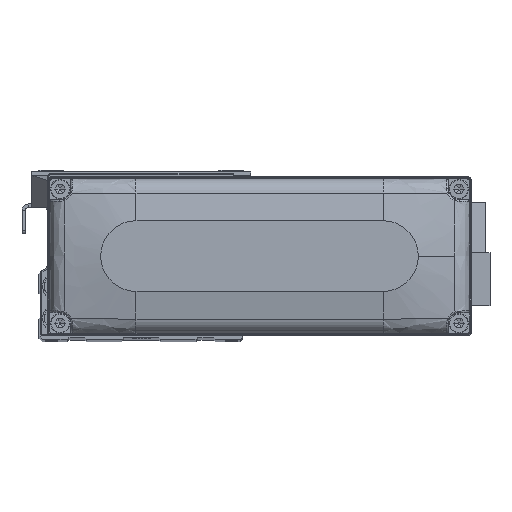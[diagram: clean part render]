
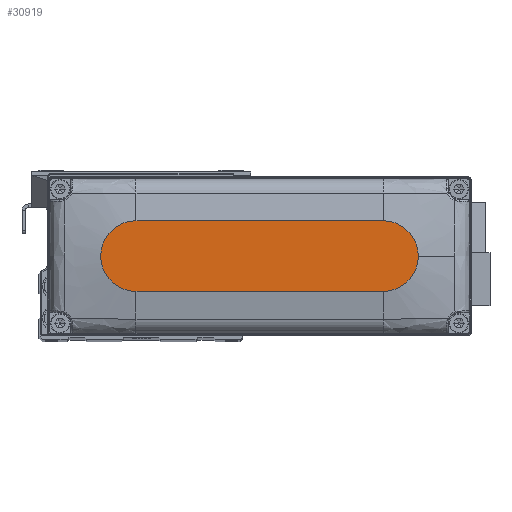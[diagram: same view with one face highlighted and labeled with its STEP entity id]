
A CAD part, top view. The second image highlights one B-rep face of the part: STEP entity #30919.
In plain terms, the highlighted planar face has unit normal (0, 0, 1).
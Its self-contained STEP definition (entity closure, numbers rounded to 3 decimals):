
#1669 = EDGE_CURVE ( 'NONE', #13676, #22332, #5885, .T. ) ;
#2064 = DIRECTION ( 'NONE',  ( -1., 0., 0. ) ) ;
#3142 = CIRCLE ( 'NONE', #26965, 10. ) ;
#3769 = EDGE_CURVE ( 'NONE', #22332, #29257, #32966, .T. ) ;
#5293 = DIRECTION ( 'NONE',  ( 1., 0., 0. ) ) ;
#5885 = CIRCLE ( 'NONE', #29692, 10. ) ;
#6286 = CARTESIAN_POINT ( 'NONE',  ( -35., 0., 28. ) ) ;
#7375 = CARTESIAN_POINT ( 'NONE',  ( -35., -10., 28. ) ) ;
#7620 = VECTOR ( 'NONE', #2064, 1000. ) ;
#7818 = EDGE_LOOP ( 'NONE', ( #27339, #16620, #21024, #18584, #40461 ) ) ;
#8247 = DIRECTION ( 'NONE',  ( 1., 0., 0. ) ) ;
#8438 = EDGE_CURVE ( 'NONE', #19213, #32591, #3142, .T. ) ;
#8491 = CARTESIAN_POINT ( 'NONE',  ( 45., 0., 28. ) ) ;
#11458 = CARTESIAN_POINT ( 'NONE',  ( 35., 0., 28. ) ) ;
#11465 = PLANE ( 'NONE',  #16617 ) ;
#12120 = DIRECTION ( 'NONE',  ( 1., 0., 0. ) ) ;
#13676 = VERTEX_POINT ( 'NONE', #20773 ) ;
#14587 = AXIS2_PLACEMENT_3D ( 'NONE', #21464, #34507, #5293 ) ;
#15325 = VECTOR ( 'NONE', #12120, 1000. ) ;
#15994 = EDGE_CURVE ( 'NONE', #32591, #13676, #28292, .T. ) ;
#16617 = AXIS2_PLACEMENT_3D ( 'NONE', #24445, #37459, #8247 ) ;
#16620 = ORIENTED_EDGE ( 'NONE', *, *, #8438, .T. ) ;
#18278 = LINE ( 'NONE', #31268, #7620 ) ;
#18584 = ORIENTED_EDGE ( 'NONE', *, *, #1669, .T. ) ;
#19213 = VERTEX_POINT ( 'NONE', #36886 ) ;
#19277 = DIRECTION ( 'NONE',  ( 0., 0., 1. ) ) ;
#20773 = CARTESIAN_POINT ( 'NONE',  ( 35., -10., 28. ) ) ;
#21024 = ORIENTED_EDGE ( 'NONE', *, *, #15994, .T. ) ;
#21464 = CARTESIAN_POINT ( 'NONE',  ( 35., 0., 28. ) ) ;
#22332 = VERTEX_POINT ( 'NONE', #8491 ) ;
#24438 = DIRECTION ( 'NONE',  ( 0., 0., 1. ) ) ;
#24445 = CARTESIAN_POINT ( 'NONE',  ( 0., 0., 28. ) ) ;
#26965 = AXIS2_PLACEMENT_3D ( 'NONE', #6286, #19277, #32291 ) ;
#27339 = ORIENTED_EDGE ( 'NONE', *, *, #42137, .T. ) ;
#28292 = LINE ( 'NONE', #41317, #15325 ) ;
#29257 = VERTEX_POINT ( 'NONE', #31947 ) ;
#29692 = AXIS2_PLACEMENT_3D ( 'NONE', #11458, #24438, #37450 ) ;
#30919 = ADVANCED_FACE ( 'NONE', ( #40658 ), #11465, .T. ) ;
#31268 = CARTESIAN_POINT ( 'NONE',  ( -35., 10., 28. ) ) ;
#31947 = CARTESIAN_POINT ( 'NONE',  ( 35., 10., 28. ) ) ;
#32291 = DIRECTION ( 'NONE',  ( 1., 0., 0. ) ) ;
#32591 = VERTEX_POINT ( 'NONE', #7375 ) ;
#32966 = CIRCLE ( 'NONE', #14587, 10. ) ;
#34507 = DIRECTION ( 'NONE',  ( 0., 0., 1. ) ) ;
#36886 = CARTESIAN_POINT ( 'NONE',  ( -35., 10., 28. ) ) ;
#37450 = DIRECTION ( 'NONE',  ( 1., 0., 0. ) ) ;
#37459 = DIRECTION ( 'NONE',  ( 0., 0., 1. ) ) ;
#40461 = ORIENTED_EDGE ( 'NONE', *, *, #3769, .T. ) ;
#40658 = FACE_OUTER_BOUND ( 'NONE', #7818, .T. ) ;
#41317 = CARTESIAN_POINT ( 'NONE',  ( -35., -10., 28. ) ) ;
#42137 = EDGE_CURVE ( 'NONE', #29257, #19213, #18278, .T. ) ;
